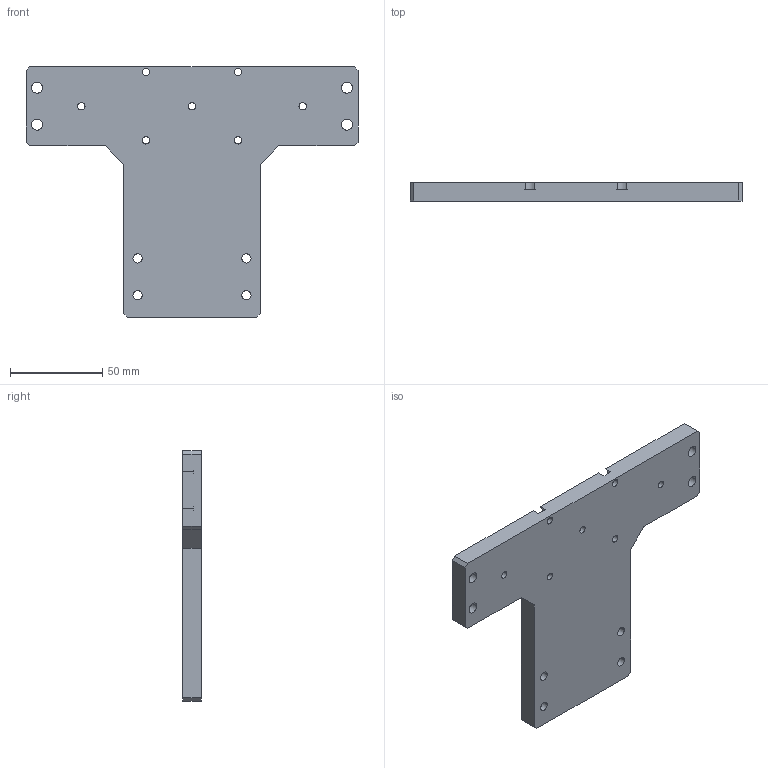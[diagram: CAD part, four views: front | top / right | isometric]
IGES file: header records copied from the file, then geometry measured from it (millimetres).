
Start section:  PTC IGES file: k46-k46m-st.igs
Global section: file name: k46-k46m-st.igs; native system: Pro/ENGINEER by Parametric Technology Corporation; preprocessor: 2008230; author: Owner; organization: Unknown; date: 20121212.100833; units: millimetre
Bounding box: 180 x 10 x 136 mm (x, y, z)
Surface area: 37895.5 mm2 (no closed solid volume)
Topology: 0 solids, 0 shells, 79 faces, 408 edges, 408 vertices
Faces by surface type: revolution 50, bspline 29
